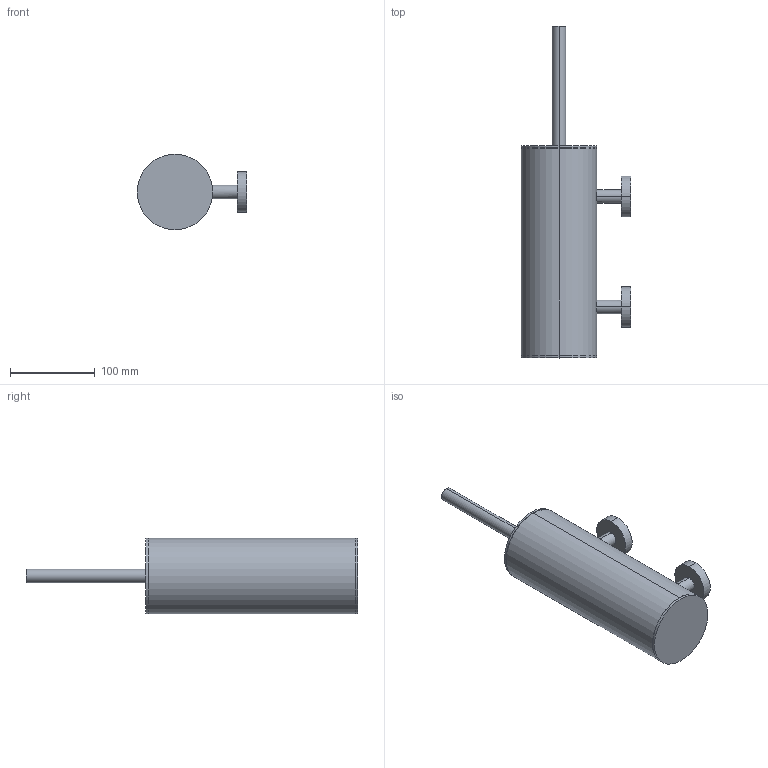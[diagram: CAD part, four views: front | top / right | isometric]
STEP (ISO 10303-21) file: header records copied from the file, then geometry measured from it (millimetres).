
FILE_DESCRIPTION (( 'STEP AP214' ), '1' );
FILE_NAME ('TSL.323.STEP', '2023-08-17T14:15:04', ( '' ), ( '' ), 'SwSTEP 2.0', 'SolidWorks 2022', '' );
FILE_SCHEMA (( 'AUTOMOTIVE_DESIGN' ));
Length unit declared in the file: millimetre
Products named in the file (1): TSL.323
Bounding box: 129 x 390.5 x 89 mm (x, y, z)
Volume: 1628335.7 mm3; surface area: 126708.8 mm2
Topology: 3 solids, 3 shells, 27 faces, 48 edges, 32 vertices
Faces by surface type: cylinder 16, plane 11
Entity records: 894 total; most frequent: CARTESIAN_POINT 288, DIRECTION 128, ORIENTED_EDGE 96, AXIS2_PLACEMENT_3D 56, EDGE_CURVE 48, EDGE_LOOP 32, VERTEX_POINT 32, CIRCLE 28
